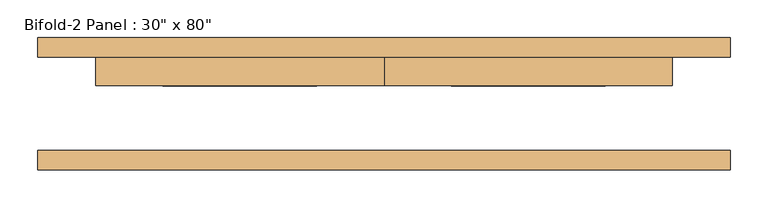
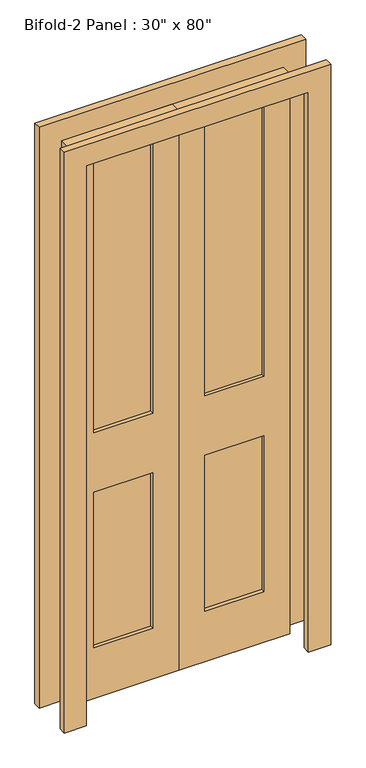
"""IFC4 building model written with IfcOpenShell, lengths in millimetres: door geometry."""

from ifc_helpers import new_model, si_unit, frame, origin, place, context, project, spatial, polyline, outline, extrude, source, transform, mapped, element, save


def door_77c9d7c5(model_context):
    return source(origin(), model_context, "Body", "SweptSolid", [
        extrude(outline(polyline([(2032.0, 0.0), (2032.0, -381.0), (0.0, -381.0), (0.0, 0.0), (2032.0, 0.0)]), holes=[polyline([(1943.1, -88.9), (965.11872, -88.9), (965.11872, -292.1), (1943.1, -292.1), (1943.1, -88.9)]), polyline([(749.3, -88.9), (184.15, -88.9), (184.15, -292.1), (749.3, -292.1), (749.3, -88.9)])]), frame((0.0, 23.8125, 0.0), z_axis=(0.0, 1.0, 0.0), x_axis=(0.0, 0.0, 1.0)), (0.0, 0.0, 1.0), 38.1),
        extrude(outline(polyline([(-88.9, 36.5125), (-292.1, 36.5125), (-292.1, 49.2125), (-88.9, 49.2125), (-88.9, 36.5125)])), frame((0.0, 0.0, 965.11872), z_axis=(0.0, 0.0, 1.0), x_axis=(1.0, 0.0, 0.0)), (0.0, 0.0, 1.0), 977.98128),
        extrude(outline(polyline([(-88.9, 36.5125), (-292.1, 36.5125), (-292.1, 49.2125), (-88.9, 49.2125), (-88.9, 36.5125)])), frame((0.0, 0.0, 184.15), z_axis=(0.0, 0.0, 1.0), x_axis=(1.0, 0.0, 0.0)), (0.0, 0.0, 1.0), 565.15),
        extrude(outline(polyline([(292.1, 36.5125), (88.9, 36.5125), (88.9, 49.2125), (292.1, 49.2125), (292.1, 36.5125)])), frame((0.0, 0.0, 965.11872), z_axis=(0.0, 0.0, 1.0), x_axis=(1.0, 0.0, 0.0)), (0.0, 0.0, 1.0), 977.98128),
        extrude(outline(polyline([(292.1, 36.5125), (88.9, 36.5125), (88.9, 49.2125), (292.1, 49.2125), (292.1, 36.5125)])), frame((0.0, 0.0, 184.15), z_axis=(0.0, 0.0, 1.0), x_axis=(1.0, 0.0, 0.0)), (0.0, 0.0, 1.0), 565.15),
        extrude(outline(polyline([(2108.2, -457.2), (0.0, -457.2), (0.0, -381.0), (2032.0, -381.0), (2032.0, 381.0), (0.0, 381.0), (0.0, 457.2), (2108.2, 457.2), (2108.2, -457.2)])), frame((0.0, 61.9125, 0.0), z_axis=(0.0, 1.0, 0.0), x_axis=(0.0, 0.0, 1.0)), (0.0, 0.0, 1.0), 25.4),
        extrude(outline(polyline([(2108.2, 457.2), (2108.2, -457.2), (0.0, -457.2), (0.0, -381.0), (2032.0, -381.0), (2032.0, 381.0), (0.0, 381.0), (0.0, 457.2), (2108.2, 457.2)])), frame((0.0, -87.3125, 0.0), z_axis=(0.0, 1.0, 0.0), x_axis=(0.0, 0.0, 1.0)), (0.0, 0.0, 1.0), 25.4),
        extrude(outline(polyline([(2032.0, 381.0), (2032.0, 0.0), (0.0, 0.0), (0.0, 381.0), (2032.0, 381.0)]), holes=[polyline([(1943.1, 88.9), (1943.1, 292.1), (965.11872, 292.1), (965.11872, 88.9), (1943.1, 88.9)]), polyline([(749.3, 88.9), (749.3, 292.1), (184.15, 292.1), (184.15, 88.9), (749.3, 88.9)])]), frame((0.0, 23.8125, 0.0), z_axis=(0.0, 1.0, 0.0), x_axis=(0.0, 0.0, 1.0)), (0.0, 0.0, 1.0), 38.1),
    ])


if __name__ == "__main__":
    model = new_model("IFC4")
    model_context = context("Model", 3, world=origin())
    ifc_project = project(units=[si_unit("LENGTHUNIT", "METRE", prefix="MILLI")], contexts=[model_context])
    site = spatial("IfcSite", under=ifc_project)
    building = spatial("IfcBuilding", under=site)
    placement = place(None, origin())
    door_shape = door_77c9d7c5(model_context)
    element("IfcDoor", 1, ObjectType="Bifold-2 Panel : 30\" x 80\"", at=placement, inside=building, context=model_context, shape_type="MappedRepresentation", body=[
        mapped(door_shape, transform((0.0, 0.0, 0.0), x_axis=(1.0, 0.0, 0.0), y_axis=(0.0, 1.0, 0.0), z_axis=(0.0, 0.0, 1.0))),
    ])
    save(model, "model.ifc")
